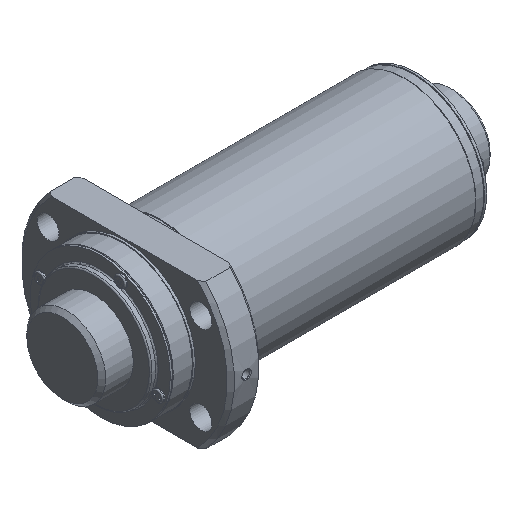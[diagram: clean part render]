
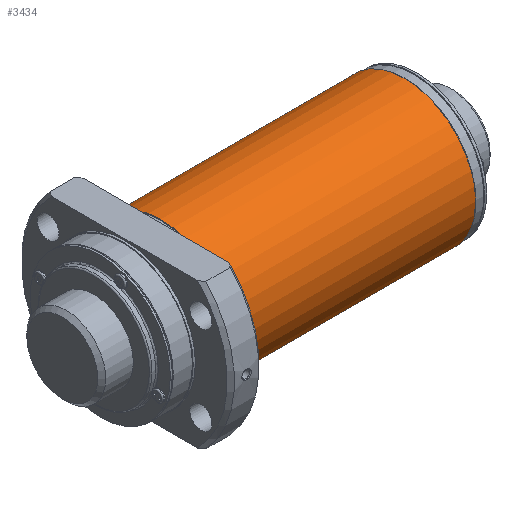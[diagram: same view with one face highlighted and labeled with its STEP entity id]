
A CAD part, isometric view. The second image highlights one B-rep face of the part: STEP entity #3434.
In plain terms, the highlighted cylindrical face has radius 45 mm (diameter 90 mm), a full revolution.
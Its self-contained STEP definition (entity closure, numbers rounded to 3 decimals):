
#953=ORIENTED_EDGE('',*,*,#1900,.T.);
#954=ORIENTED_EDGE('',*,*,#1899,.F.);
#1899=EDGE_CURVE('',#2374,#2374,#2703,.T.);
#1900=EDGE_CURVE('',#2375,#2375,#2704,.T.);
#2374=VERTEX_POINT('',#5288);
#2375=VERTEX_POINT('',#5291);
#2703=CIRCLE('',#3714,45.);
#2704=CIRCLE('',#3716,45.);
#2853=EDGE_LOOP('',(#953));
#2854=EDGE_LOOP('',(#954));
#3129=FACE_BOUND('',#2853,.T.);
#3130=FACE_BOUND('',#2854,.T.);
#3356=CYLINDRICAL_SURFACE('',#3715,45.);
#3434=ADVANCED_FACE('',(#3129,#3130),#3356,.T.);
#3714=AXIS2_PLACEMENT_3D('',#5287,#4148,#4149);
#3715=AXIS2_PLACEMENT_3D('',#5289,#4150,#4151);
#3716=AXIS2_PLACEMENT_3D('',#5290,#4152,#4153);
#4148=DIRECTION('',(1.,0.,0.));
#4149=DIRECTION('',(0.,0.,-1.));
#4150=DIRECTION('',(1.,0.,0.));
#4151=DIRECTION('',(0.,0.,-1.));
#4152=DIRECTION('',(1.,0.,0.));
#4153=DIRECTION('',(0.,0.,-1.));
#5287=CARTESIAN_POINT('',(192.,0.,0.));
#5288=CARTESIAN_POINT('',(192.,0.,-45.));
#5289=CARTESIAN_POINT('',(198.,0.,0.));
#5290=CARTESIAN_POINT('',(37.,0.,0.));
#5291=CARTESIAN_POINT('',(37.,0.,-45.));
